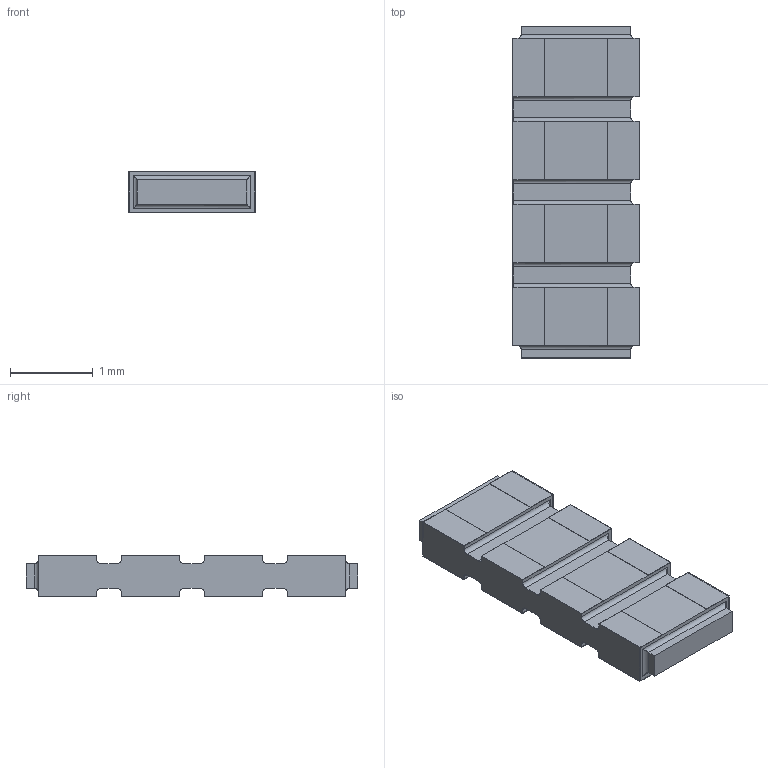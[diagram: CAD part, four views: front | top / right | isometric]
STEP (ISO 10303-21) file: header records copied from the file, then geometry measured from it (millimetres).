
FILE_DESCRIPTION(/* description */ (''),/* implementation_level */ '2;1');
FILE_NAME(/* name */ 'S:\DOCUMENT\AUTOCAD\3D_Modèles\10_3D-pour-VISHAY-COM\PRA\PRA100\PRA100-C2_à_C8\20_STEP\PRA100C4_B-or-N-or-G.stp',/* time_stamp */ '2017-12-18T09:20:06+01:00',/* author */ ('dparmentier'),/* organization */ ('unknown'),/* preprocessor_version */ 'ST-DEVELOPER v17',/* originating_system */ 'Autodesk Inventor 2018',/* authorisation */ '');
FILE_SCHEMA (('AUTOMOTIVE_DESIGN { 1 0 10303 214 3 1 1 }'));
Length unit declared in the file: millimetre
Products named in the file (1): PRA100C4_B-or-N-or-G
Bounding box: 1.52 x 4 x 0.5 mm (x, y, z)
Volume: 2.6 mm3; surface area: 32.8 mm2
Topology: 6 solids, 6 shells, 164 faces, 430 edges, 280 vertices
Faces by surface type: plane 126, cylinder 38
Entity records: 5018 total; most frequent: CARTESIAN_POINT 875, ORIENTED_EDGE 860, DIRECTION 816, EDGE_CURVE 430, LINE 374, VECTOR 374, VERTEX_POINT 280, AXIS2_PLACEMENT_3D 221
